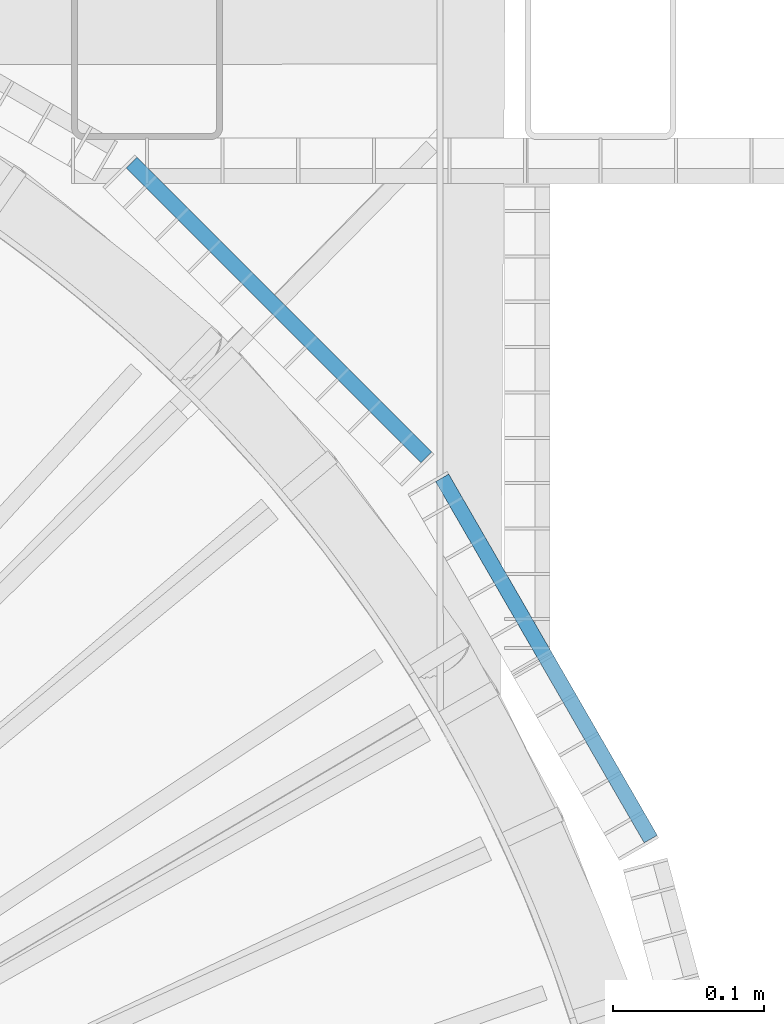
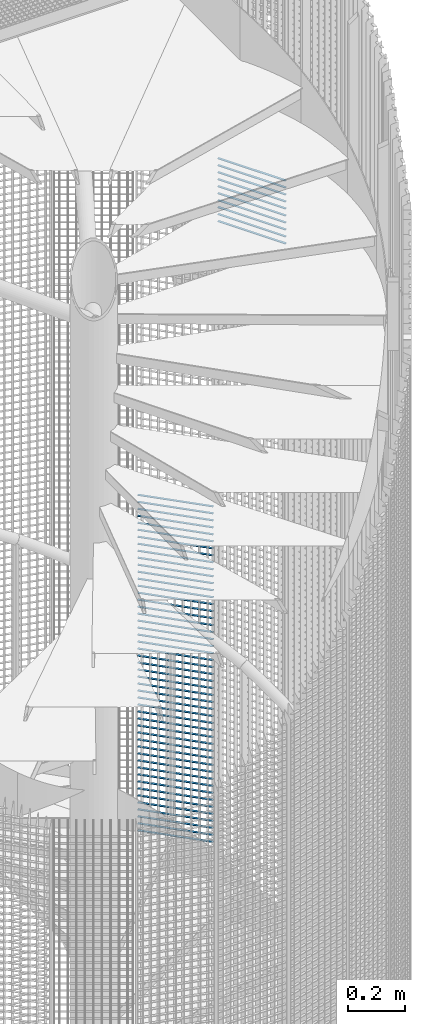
# One storey, part 286 of 1148: 59 beams, 2 elements without a shape of their own.
"""IFC2X3 building model written with IfcOpenShell, lengths in millimetres."""

from ifc_helpers import new_model, si_unit, frame, origin_with_axes, origin_2d_with_axis, place, context, subcontext, project, spatial, rectangle, extrude, material, type_object, element, aggregate, save


model = new_model("IFC2X3")

# Units and contexts
model_context = context("Model", 3, precision=1e-05, world=origin_with_axes())
body_context = subcontext(model_context, "Body", "Model", "MODEL_VIEW")
ifc_project = project(units=[si_unit("LENGTHUNIT", "METRE", prefix="MILLI"), si_unit("AREAUNIT", "SQUARE_METRE"), si_unit("VOLUMEUNIT", "CUBIC_METRE"), si_unit("MASSUNIT", "GRAM", prefix="KILO"), si_unit("TIMEUNIT", "SECOND"), si_unit("PLANEANGLEUNIT", "RADIAN"), si_unit("SOLIDANGLEUNIT", "STERADIAN"), si_unit("THERMODYNAMICTEMPERATUREUNIT", "DEGREE_CELSIUS"), si_unit("LUMINOUSINTENSITYUNIT", "LUMEN")], contexts=[model_context])

# Site, building, storey
site_placement = place(None, origin_with_axes())
site = spatial("IfcSite", under=ifc_project, at=site_placement, Name="Undefined", CompositionType="ELEMENT")
building_placement = place(site_placement, origin_with_axes())
building = spatial("IfcBuilding", under=site, at=building_placement, Name="Undefined", CompositionType="ELEMENT")
storey_placement = place(building_placement, origin_with_axes())
storey = spatial("IfcBuildingStorey", under=building, at=storey_placement, Name="Undefined", CompositionType="ELEMENT", Elevation=0.0)

# Assembly, beams
assembly_1_placement = place(storey_placement, origin_with_axes())
assembly_1 = element("IfcElementAssembly", 1, at=assembly_1_placement, inside=storey, Name="BORDURE", AssemblyPlace="NOTDEFINED", PredefinedType="NOTDEFINED")
ifc_material = material(Name="STEEL/S235JR")
beam_type = type_object("IfcBeamType", Name="PL2*10", PredefinedType="NOTDEFINED")
beam_1_placement = place(assembly_1_placement, frame((884.927168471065, 689.771348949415, 4470.0), z_axis=(0.707106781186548, 0.707106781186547, 0.0), x_axis=(-0.707106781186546, 0.707106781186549, 0.0)))
beam_1 = element("IfcBeam", 2, at=beam_1_placement, type_object=beam_type, material=ifc_material, Name="ENTRETOISE", context=body_context, shape_type="SweptSolid", body=[
    extrude(rectangle(XDim=2.0, YDim=10.0, at=origin_2d_with_axis()), frame((275.999999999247, 9.09494701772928e-13, 1.53210777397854e-14), z_axis=(-1.0, 0.0, 0.0), x_axis=(0.0, -1.0, 0.0)), (0.0, 0.0, 1.0), 276.0),
])
beam_2_placement = place(assembly_1_placement, frame((884.927168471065, 689.771348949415, 4440.0), z_axis=(0.707106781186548, 0.707106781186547, 0.0), x_axis=(-0.707106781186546, 0.707106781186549, 0.0)))
beam_2 = element("IfcBeam", 3, at=beam_2_placement, type_object=beam_type, material=ifc_material, Name="ENTRETOISE", context=body_context, shape_type="SweptSolid", body=[
    extrude(rectangle(XDim=2.0, YDim=10.0, at=origin_2d_with_axis()), frame((275.999999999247, 9.09494701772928e-13, 1.53210777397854e-14), z_axis=(-1.0, 0.0, 0.0), x_axis=(0.0, -1.0, 0.0)), (0.0, 0.0, 1.0), 276.0),
])
beam_3_placement = place(assembly_1_placement, frame((884.927168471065, 689.771348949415, 4410.0), z_axis=(0.707106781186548, 0.707106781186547, 0.0), x_axis=(-0.707106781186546, 0.707106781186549, 0.0)))
beam_3 = element("IfcBeam", 4, at=beam_3_placement, type_object=beam_type, material=ifc_material, Name="ENTRETOISE", context=body_context, shape_type="SweptSolid", body=[
    extrude(rectangle(XDim=2.0, YDim=10.0, at=origin_2d_with_axis()), frame((275.999999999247, 9.09494701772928e-13, 1.53210777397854e-14), z_axis=(-1.0, 0.0, 0.0), x_axis=(0.0, -1.0, 0.0)), (0.0, 0.0, 1.0), 276.0),
])
beam_4_placement = place(assembly_1_placement, frame((884.927168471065, 689.771348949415, 4380.0), z_axis=(0.707106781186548, 0.707106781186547, 0.0), x_axis=(-0.707106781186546, 0.707106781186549, 0.0)))
beam_4 = element("IfcBeam", 5, at=beam_4_placement, type_object=beam_type, material=ifc_material, Name="ENTRETOISE", context=body_context, shape_type="SweptSolid", body=[
    extrude(rectangle(XDim=2.0, YDim=10.0, at=origin_2d_with_axis()), frame((275.999999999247, 9.09494701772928e-13, 1.53210777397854e-14), z_axis=(-1.0, 0.0, 0.0), x_axis=(0.0, -1.0, 0.0)), (0.0, 0.0, 1.0), 276.0),
])
beam_5_placement = place(assembly_1_placement, frame((884.927168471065, 689.771348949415, 4350.0), z_axis=(0.707106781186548, 0.707106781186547, 0.0), x_axis=(-0.707106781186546, 0.707106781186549, 0.0)))
beam_5 = element("IfcBeam", 6, at=beam_5_placement, type_object=beam_type, material=ifc_material, Name="ENTRETOISE", context=body_context, shape_type="SweptSolid", body=[
    extrude(rectangle(XDim=2.0, YDim=10.0, at=origin_2d_with_axis()), frame((275.999999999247, 9.09494701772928e-13, 1.53210777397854e-14), z_axis=(-1.0, 0.0, 0.0), x_axis=(0.0, -1.0, 0.0)), (0.0, 0.0, 1.0), 276.0),
])
beam_6_placement = place(assembly_1_placement, frame((884.927168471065, 689.771348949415, 4320.0), z_axis=(0.707106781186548, 0.707106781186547, 0.0), x_axis=(-0.707106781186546, 0.707106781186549, 0.0)))
beam_6 = element("IfcBeam", 7, at=beam_6_placement, type_object=beam_type, material=ifc_material, Name="ENTRETOISE", context=body_context, shape_type="SweptSolid", body=[
    extrude(rectangle(XDim=2.0, YDim=10.0, at=origin_2d_with_axis()), frame((275.999999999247, 9.09494701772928e-13, 1.53210777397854e-14), z_axis=(-1.0, 0.0, 0.0), x_axis=(0.0, -1.0, 0.0)), (0.0, 0.0, 1.0), 276.0),
])
beam_7_placement = place(assembly_1_placement, frame((884.927168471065, 689.771348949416, 4290.0), z_axis=(0.707106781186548, 0.707106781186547, 0.0), x_axis=(-0.707106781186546, 0.707106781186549, 0.0)))
beam_7 = element("IfcBeam", 8, at=beam_7_placement, type_object=beam_type, material=ifc_material, Name="ENTRETOISE", context=body_context, shape_type="SweptSolid", body=[
    extrude(rectangle(XDim=2.0, YDim=10.0, at=origin_2d_with_axis()), frame((275.999999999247, 9.09494701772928e-13, 1.53210777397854e-14), z_axis=(-1.0, 0.0, 0.0), x_axis=(0.0, -1.0, 0.0)), (0.0, 0.0, 1.0), 276.0),
])
beam_8_placement = place(assembly_1_placement, frame((884.927168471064, 689.771348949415, 4260.0), z_axis=(0.707106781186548, 0.707106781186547, 0.0), x_axis=(-0.707106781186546, 0.707106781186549, 0.0)))
beam_8 = element("IfcBeam", 9, at=beam_8_placement, type_object=beam_type, material=ifc_material, Name="ENTRETOISE", context=body_context, shape_type="SweptSolid", body=[
    extrude(rectangle(XDim=2.0, YDim=10.0, at=origin_2d_with_axis()), frame((275.999999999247, 9.09494701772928e-13, 1.53210777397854e-14), z_axis=(-1.0, 0.0, 0.0), x_axis=(0.0, -1.0, 0.0)), (0.0, 0.0, 1.0), 276.0),
])
beam_9_placement = place(assembly_1_placement, frame((884.927168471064, 689.771348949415, 4230.0), z_axis=(0.707106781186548, 0.707106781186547, 0.0), x_axis=(-0.707106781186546, 0.707106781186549, 0.0)))
beam_9 = element("IfcBeam", 10, at=beam_9_placement, type_object=beam_type, material=ifc_material, Name="ENTRETOISE", context=body_context, shape_type="SweptSolid", body=[
    extrude(rectangle(XDim=2.0, YDim=10.0, at=origin_2d_with_axis()), frame((275.999999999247, 9.09494701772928e-13, 1.53210777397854e-14), z_axis=(-1.0, 0.0, 0.0), x_axis=(0.0, -1.0, 0.0)), (0.0, 0.0, 1.0), 276.0),
])
beam_10_placement = place(assembly_1_placement, frame((884.927168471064, 689.771348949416, 4200.0), z_axis=(0.707106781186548, 0.707106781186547, 0.0), x_axis=(-0.707106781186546, 0.707106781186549, 0.0)))
beam_10 = element("IfcBeam", 11, at=beam_10_placement, type_object=beam_type, material=ifc_material, Name="ENTRETOISE", context=body_context, shape_type="SweptSolid", body=[
    extrude(rectangle(XDim=2.0, YDim=10.0, at=origin_2d_with_axis()), frame((275.999999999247, 9.09494701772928e-13, 1.53210777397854e-14), z_axis=(-1.0, 0.0, 0.0), x_axis=(0.0, -1.0, 0.0)), (0.0, 0.0, 1.0), 276.0),
])
beam_11_placement = place(assembly_1_placement, frame((884.927168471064, 689.771348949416, 4170.0), z_axis=(0.707106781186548, 0.707106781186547, 0.0), x_axis=(-0.707106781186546, 0.707106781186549, 0.0)))
beam_11 = element("IfcBeam", 12, at=beam_11_placement, type_object=beam_type, material=ifc_material, Name="ENTRETOISE", context=body_context, shape_type="SweptSolid", body=[
    extrude(rectangle(XDim=2.0, YDim=10.0, at=origin_2d_with_axis()), frame((275.999999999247, 9.09494701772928e-13, 1.53210777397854e-14), z_axis=(-1.0, 0.0, 0.0), x_axis=(0.0, -1.0, 0.0)), (0.0, 0.0, 1.0), 276.0),
])
beam_12_placement = place(assembly_1_placement, frame((884.927168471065, 689.771348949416, 4140.0), z_axis=(0.707106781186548, 0.707106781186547, 0.0), x_axis=(-0.707106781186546, 0.707106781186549, 0.0)))
beam_12 = element("IfcBeam", 13, at=beam_12_placement, type_object=beam_type, material=ifc_material, Name="ENTRETOISE", context=body_context, shape_type="SweptSolid", body=[
    extrude(rectangle(XDim=2.0, YDim=10.0, at=origin_2d_with_axis()), frame((275.999999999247, 9.09494701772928e-13, 1.53210777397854e-14), z_axis=(-1.0, 0.0, 0.0), x_axis=(0.0, -1.0, 0.0)), (0.0, 0.0, 1.0), 276.0),
])
beam_13_placement = place(assembly_1_placement, frame((884.927168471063, 689.771348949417, 3720.0), z_axis=(0.707106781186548, 0.707106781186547, 0.0), x_axis=(-0.707106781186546, 0.707106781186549, 0.0)))
beam_13 = element("IfcBeam", 14, at=beam_13_placement, type_object=beam_type, material=ifc_material, Name="ENTRETOISE", context=body_context, shape_type="SweptSolid", body=[
    extrude(rectangle(XDim=2.0, YDim=10.0, at=origin_2d_with_axis()), frame((275.999999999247, 9.09494701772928e-13, 1.53210777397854e-14), z_axis=(-1.0, 0.0, 0.0), x_axis=(0.0, -1.0, 0.0)), (0.0, 0.0, 1.0), 276.0),
])
beam_14_placement = place(assembly_1_placement, frame((884.927168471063, 689.771348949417, 3690.0), z_axis=(0.707106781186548, 0.707106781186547, 0.0), x_axis=(-0.707106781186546, 0.707106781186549, 0.0)))
beam_14 = element("IfcBeam", 15, at=beam_14_placement, type_object=beam_type, material=ifc_material, Name="ENTRETOISE", context=body_context, shape_type="SweptSolid", body=[
    extrude(rectangle(XDim=2.0, YDim=10.0, at=origin_2d_with_axis()), frame((275.999999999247, 9.09494701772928e-13, 1.53210777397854e-14), z_axis=(-1.0, 0.0, 0.0), x_axis=(0.0, -1.0, 0.0)), (0.0, 0.0, 1.0), 276.0),
])
beam_15_placement = place(assembly_1_placement, frame((884.927168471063, 689.771348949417, 3750.0), z_axis=(0.707106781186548, 0.707106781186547, 0.0), x_axis=(-0.707106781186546, 0.707106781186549, 0.0)))
beam_15 = element("IfcBeam", 16, at=beam_15_placement, type_object=beam_type, material=ifc_material, Name="ENTRETOISE", context=body_context, shape_type="SweptSolid", body=[
    extrude(rectangle(XDim=2.0, YDim=10.0, at=origin_2d_with_axis()), frame((275.999999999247, 9.09494701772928e-13, 1.53210777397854e-14), z_axis=(-1.0, 0.0, 0.0), x_axis=(0.0, -1.0, 0.0)), (0.0, 0.0, 1.0), 276.0),
])
beam_16_placement = place(assembly_1_placement, frame((884.927168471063, 689.771348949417, 3660.0), z_axis=(0.707106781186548, 0.707106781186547, 0.0), x_axis=(-0.707106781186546, 0.707106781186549, 0.0)))
beam_16 = element("IfcBeam", 17, at=beam_16_placement, type_object=beam_type, material=ifc_material, Name="ENTRETOISE", context=body_context, shape_type="SweptSolid", body=[
    extrude(rectangle(XDim=2.0, YDim=10.0, at=origin_2d_with_axis()), frame((275.999999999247, 9.09494701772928e-13, 1.53210777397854e-14), z_axis=(-1.0, 0.0, 0.0), x_axis=(0.0, -1.0, 0.0)), (0.0, 0.0, 1.0), 276.0),
])
beam_17_placement = place(assembly_1_placement, frame((884.927168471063, 689.771348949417, 3630.0), z_axis=(0.707106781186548, 0.707106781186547, 0.0), x_axis=(-0.707106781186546, 0.707106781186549, 0.0)))
beam_17 = element("IfcBeam", 18, at=beam_17_placement, type_object=beam_type, material=ifc_material, Name="ENTRETOISE", context=body_context, shape_type="SweptSolid", body=[
    extrude(rectangle(XDim=2.0, YDim=10.0, at=origin_2d_with_axis()), frame((275.999999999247, 9.09494701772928e-13, 1.53210777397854e-14), z_axis=(-1.0, 0.0, 0.0), x_axis=(0.0, -1.0, 0.0)), (0.0, 0.0, 1.0), 276.0),
])
beam_18_placement = place(assembly_1_placement, frame((884.927168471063, 689.771348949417, 3780.0), z_axis=(0.707106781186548, 0.707106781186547, 0.0), x_axis=(-0.707106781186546, 0.707106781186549, 0.0)))
beam_18 = element("IfcBeam", 19, at=beam_18_placement, type_object=beam_type, material=ifc_material, Name="ENTRETOISE", context=body_context, shape_type="SweptSolid", body=[
    extrude(rectangle(XDim=2.0, YDim=10.0, at=origin_2d_with_axis()), frame((275.999999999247, 9.09494701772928e-13, 1.53210777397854e-14), z_axis=(-1.0, 0.0, 0.0), x_axis=(0.0, -1.0, 0.0)), (0.0, 0.0, 1.0), 276.0),
])
beam_19_placement = place(assembly_1_placement, frame((884.927168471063, 689.771348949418, 3600.0), z_axis=(0.707106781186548, 0.707106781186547, 0.0), x_axis=(-0.707106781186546, 0.707106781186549, 0.0)))
beam_19 = element("IfcBeam", 20, at=beam_19_placement, type_object=beam_type, material=ifc_material, Name="ENTRETOISE", context=body_context, shape_type="SweptSolid", body=[
    extrude(rectangle(XDim=2.0, YDim=10.0, at=origin_2d_with_axis()), frame((275.999999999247, 9.09494701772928e-13, 1.53210777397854e-14), z_axis=(-1.0, 0.0, 0.0), x_axis=(0.0, -1.0, 0.0)), (0.0, 0.0, 1.0), 276.0),
])
beam_20_placement = place(assembly_1_placement, frame((884.927168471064, 689.771348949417, 3810.0), z_axis=(0.707106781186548, 0.707106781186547, 0.0), x_axis=(-0.707106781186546, 0.707106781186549, 0.0)))
beam_20 = element("IfcBeam", 21, at=beam_20_placement, type_object=beam_type, material=ifc_material, Name="ENTRETOISE", context=body_context, shape_type="SweptSolid", body=[
    extrude(rectangle(XDim=2.0, YDim=10.0, at=origin_2d_with_axis()), frame((275.999999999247, 9.09494701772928e-13, 1.53210777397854e-14), z_axis=(-1.0, 0.0, 0.0), x_axis=(0.0, -1.0, 0.0)), (0.0, 0.0, 1.0), 276.0),
])
beam_21_placement = place(assembly_1_placement, frame((884.927168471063, 689.771348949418, 3570.0), z_axis=(0.707106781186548, 0.707106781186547, 0.0), x_axis=(-0.707106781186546, 0.707106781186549, 0.0)))
beam_21 = element("IfcBeam", 22, at=beam_21_placement, type_object=beam_type, material=ifc_material, Name="ENTRETOISE", context=body_context, shape_type="SweptSolid", body=[
    extrude(rectangle(XDim=2.0, YDim=10.0, at=origin_2d_with_axis()), frame((275.999999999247, 9.09494701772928e-13, 1.53210777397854e-14), z_axis=(-1.0, 0.0, 0.0), x_axis=(0.0, -1.0, 0.0)), (0.0, 0.0, 1.0), 276.0),
])
beam_22_placement = place(assembly_1_placement, frame((884.927168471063, 689.771348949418, 3540.0), z_axis=(0.707106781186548, 0.707106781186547, 0.0), x_axis=(-0.707106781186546, 0.707106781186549, 0.0)))
beam_22 = element("IfcBeam", 23, at=beam_22_placement, type_object=beam_type, material=ifc_material, Name="ENTRETOISE", context=body_context, shape_type="SweptSolid", body=[
    extrude(rectangle(XDim=2.0, YDim=10.0, at=origin_2d_with_axis()), frame((275.999999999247, 9.09494701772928e-13, 1.53210777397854e-14), z_axis=(-1.0, 0.0, 0.0), x_axis=(0.0, -1.0, 0.0)), (0.0, 0.0, 1.0), 276.0),
])
beam_23_placement = place(assembly_1_placement, frame((884.927168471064, 689.771348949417, 3840.0), z_axis=(0.707106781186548, 0.707106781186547, 0.0), x_axis=(-0.707106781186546, 0.707106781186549, 0.0)))
beam_23 = element("IfcBeam", 24, at=beam_23_placement, type_object=beam_type, material=ifc_material, Name="ENTRETOISE", context=body_context, shape_type="SweptSolid", body=[
    extrude(rectangle(XDim=2.0, YDim=10.0, at=origin_2d_with_axis()), frame((275.999999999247, 9.09494701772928e-13, 1.53210777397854e-14), z_axis=(-1.0, 0.0, 0.0), x_axis=(0.0, -1.0, 0.0)), (0.0, 0.0, 1.0), 276.0),
])
beam_24_placement = place(assembly_1_placement, frame((884.927168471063, 689.771348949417, 3510.0), z_axis=(0.707106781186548, 0.707106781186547, 0.0), x_axis=(-0.707106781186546, 0.707106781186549, 0.0)))
beam_24 = element("IfcBeam", 25, at=beam_24_placement, type_object=beam_type, material=ifc_material, Name="ENTRETOISE", context=body_context, shape_type="SweptSolid", body=[
    extrude(rectangle(XDim=2.0, YDim=10.0, at=origin_2d_with_axis()), frame((275.999999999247, 9.09494701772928e-13, 1.53210777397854e-14), z_axis=(-1.0, 0.0, 0.0), x_axis=(0.0, -1.0, 0.0)), (0.0, 0.0, 1.0), 276.0),
])
beam_25_placement = place(assembly_1_placement, frame((884.927168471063, 689.771348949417, 3480.0), z_axis=(0.707106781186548, 0.707106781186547, 0.0), x_axis=(-0.707106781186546, 0.707106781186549, 0.0)))
beam_25 = element("IfcBeam", 26, at=beam_25_placement, type_object=beam_type, material=ifc_material, Name="ENTRETOISE", context=body_context, shape_type="SweptSolid", body=[
    extrude(rectangle(XDim=2.0, YDim=10.0, at=origin_2d_with_axis()), frame((275.999999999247, 9.09494701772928e-13, 1.53210777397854e-14), z_axis=(-1.0, 0.0, 0.0), x_axis=(0.0, -1.0, 0.0)), (0.0, 0.0, 1.0), 276.0),
])
beam_26_placement = place(assembly_1_placement, frame((884.927168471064, 689.771348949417, 3870.0), z_axis=(0.707106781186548, 0.707106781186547, 0.0), x_axis=(-0.707106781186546, 0.707106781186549, 0.0)))
beam_26 = element("IfcBeam", 27, at=beam_26_placement, type_object=beam_type, material=ifc_material, Name="ENTRETOISE", context=body_context, shape_type="SweptSolid", body=[
    extrude(rectangle(XDim=2.0, YDim=10.0, at=origin_2d_with_axis()), frame((275.999999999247, 9.09494701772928e-13, 1.53210777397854e-14), z_axis=(-1.0, 0.0, 0.0), x_axis=(0.0, -1.0, 0.0)), (0.0, 0.0, 1.0), 276.0),
])
beam_27_placement = place(assembly_1_placement, frame((884.927168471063, 689.771348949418, 3450.0), z_axis=(0.707106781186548, 0.707106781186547, 0.0), x_axis=(-0.707106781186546, 0.707106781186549, 0.0)))
beam_27 = element("IfcBeam", 28, at=beam_27_placement, type_object=beam_type, material=ifc_material, Name="ENTRETOISE", context=body_context, shape_type="SweptSolid", body=[
    extrude(rectangle(XDim=2.0, YDim=10.0, at=origin_2d_with_axis()), frame((275.999999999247, 9.09494701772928e-13, 1.53210777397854e-14), z_axis=(-1.0, 0.0, 0.0), x_axis=(0.0, -1.0, 0.0)), (0.0, 0.0, 1.0), 276.0),
])
beam_28_placement = place(assembly_1_placement, frame((884.927168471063, 689.771348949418, 3420.0), z_axis=(0.707106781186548, 0.707106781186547, 0.0), x_axis=(-0.707106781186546, 0.707106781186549, 0.0)))
beam_28 = element("IfcBeam", 29, at=beam_28_placement, type_object=beam_type, material=ifc_material, Name="ENTRETOISE", context=body_context, shape_type="SweptSolid", body=[
    extrude(rectangle(XDim=2.0, YDim=10.0, at=origin_2d_with_axis()), frame((275.999999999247, 9.09494701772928e-13, 1.53210777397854e-14), z_axis=(-1.0, 0.0, 0.0), x_axis=(0.0, -1.0, 0.0)), (0.0, 0.0, 1.0), 276.0),
])
beam_29_placement = place(assembly_1_placement, frame((884.927168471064, 689.771348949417, 3900.0), z_axis=(0.707106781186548, 0.707106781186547, 0.0), x_axis=(-0.707106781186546, 0.707106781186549, 0.0)))
beam_29 = element("IfcBeam", 30, at=beam_29_placement, type_object=beam_type, material=ifc_material, Name="ENTRETOISE", context=body_context, shape_type="SweptSolid", body=[
    extrude(rectangle(XDim=2.0, YDim=10.0, at=origin_2d_with_axis()), frame((275.999999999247, 9.09494701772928e-13, 1.53210777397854e-14), z_axis=(-1.0, 0.0, 0.0), x_axis=(0.0, -1.0, 0.0)), (0.0, 0.0, 1.0), 276.0),
])
beam_30_placement = place(assembly_1_placement, frame((884.927168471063, 689.771348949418, 3390.0), z_axis=(0.707106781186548, 0.707106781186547, 0.0), x_axis=(-0.707106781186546, 0.707106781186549, 0.0)))
beam_30 = element("IfcBeam", 31, at=beam_30_placement, type_object=beam_type, material=ifc_material, Name="ENTRETOISE", context=body_context, shape_type="SweptSolid", body=[
    extrude(rectangle(XDim=2.0, YDim=10.0, at=origin_2d_with_axis()), frame((275.999999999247, 9.09494701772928e-13, 1.53210777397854e-14), z_axis=(-1.0, 0.0, 0.0), x_axis=(0.0, -1.0, 0.0)), (0.0, 0.0, 1.0), 276.0),
])
beam_31_placement = place(assembly_1_placement, frame((884.927168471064, 689.771348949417, 3930.0), z_axis=(0.707106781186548, 0.707106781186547, 0.0), x_axis=(-0.707106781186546, 0.707106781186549, 0.0)))
beam_31 = element("IfcBeam", 32, at=beam_31_placement, type_object=beam_type, material=ifc_material, Name="ENTRETOISE", context=body_context, shape_type="SweptSolid", body=[
    extrude(rectangle(XDim=2.0, YDim=10.0, at=origin_2d_with_axis()), frame((275.999999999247, 9.09494701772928e-13, 1.53210777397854e-14), z_axis=(-1.0, 0.0, 0.0), x_axis=(0.0, -1.0, 0.0)), (0.0, 0.0, 1.0), 276.0),
])
beam_32_placement = place(assembly_1_placement, frame((884.927168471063, 689.771348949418, 3360.0), z_axis=(0.707106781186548, 0.707106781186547, 0.0), x_axis=(-0.707106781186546, 0.707106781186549, 0.0)))
beam_32 = element("IfcBeam", 33, at=beam_32_placement, type_object=beam_type, material=ifc_material, Name="ENTRETOISE", context=body_context, shape_type="SweptSolid", body=[
    extrude(rectangle(XDim=2.0, YDim=10.0, at=origin_2d_with_axis()), frame((275.999999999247, 9.09494701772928e-13, 1.53210777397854e-14), z_axis=(-1.0, 0.0, 0.0), x_axis=(0.0, -1.0, 0.0)), (0.0, 0.0, 1.0), 276.0),
])
beam_33_placement = place(assembly_1_placement, frame((884.927168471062, 689.771348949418, 3330.0), z_axis=(0.707106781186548, 0.707106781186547, 0.0), x_axis=(-0.707106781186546, 0.707106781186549, 0.0)))
beam_33 = element("IfcBeam", 34, at=beam_33_placement, type_object=beam_type, material=ifc_material, Name="ENTRETOISE", context=body_context, shape_type="SweptSolid", body=[
    extrude(rectangle(XDim=2.0, YDim=10.0, at=origin_2d_with_axis()), frame((275.999999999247, 9.09494701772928e-13, 1.53210777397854e-14), z_axis=(-1.0, 0.0, 0.0), x_axis=(0.0, -1.0, 0.0)), (0.0, 0.0, 1.0), 276.0),
])
beam_34_placement = place(assembly_1_placement, frame((884.927168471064, 689.771348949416, 3960.0), z_axis=(0.707106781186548, 0.707106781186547, 0.0), x_axis=(-0.707106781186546, 0.707106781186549, 0.0)))
beam_34 = element("IfcBeam", 35, at=beam_34_placement, type_object=beam_type, material=ifc_material, Name="ENTRETOISE", context=body_context, shape_type="SweptSolid", body=[
    extrude(rectangle(XDim=2.0, YDim=10.0, at=origin_2d_with_axis()), frame((275.999999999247, 9.09494701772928e-13, 1.53210777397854e-14), z_axis=(-1.0, 0.0, 0.0), x_axis=(0.0, -1.0, 0.0)), (0.0, 0.0, 1.0), 276.0),
])
beam_35_placement = place(assembly_1_placement, frame((884.927168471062, 689.771348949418, 3300.0), z_axis=(0.707106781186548, 0.707106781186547, 0.0), x_axis=(-0.707106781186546, 0.707106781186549, 0.0)))
beam_35 = element("IfcBeam", 36, at=beam_35_placement, type_object=beam_type, material=ifc_material, Name="ENTRETOISE", context=body_context, shape_type="SweptSolid", body=[
    extrude(rectangle(XDim=2.0, YDim=10.0, at=origin_2d_with_axis()), frame((275.999999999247, 9.09494701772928e-13, 1.53210777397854e-14), z_axis=(-1.0, 0.0, 0.0), x_axis=(0.0, -1.0, 0.0)), (0.0, 0.0, 1.0), 276.0),
])
beam_36_placement = place(assembly_1_placement, frame((884.927168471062, 689.771348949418, 3270.0), z_axis=(0.707106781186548, 0.707106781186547, 0.0), x_axis=(-0.707106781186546, 0.707106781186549, 0.0)))
beam_36 = element("IfcBeam", 37, at=beam_36_placement, type_object=beam_type, material=ifc_material, Name="ENTRETOISE", context=body_context, shape_type="SweptSolid", body=[
    extrude(rectangle(XDim=2.0, YDim=10.0, at=origin_2d_with_axis()), frame((275.999999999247, 9.09494701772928e-13, 1.53210777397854e-14), z_axis=(-1.0, 0.0, 0.0), x_axis=(0.0, -1.0, 0.0)), (0.0, 0.0, 1.0), 276.0),
])
beam_37_placement = place(assembly_1_placement, frame((884.927168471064, 689.771348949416, 3990.0), z_axis=(0.707106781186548, 0.707106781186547, 0.0), x_axis=(-0.707106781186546, 0.707106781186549, 0.0)))
beam_37 = element("IfcBeam", 38, at=beam_37_placement, type_object=beam_type, material=ifc_material, Name="ENTRETOISE", context=body_context, shape_type="SweptSolid", body=[
    extrude(rectangle(XDim=2.0, YDim=10.0, at=origin_2d_with_axis()), frame((275.999999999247, 9.09494701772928e-13, 1.53210777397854e-14), z_axis=(-1.0, 0.0, 0.0), x_axis=(0.0, -1.0, 0.0)), (0.0, 0.0, 1.0), 276.0),
])
beam_38_placement = place(assembly_1_placement, frame((884.927168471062, 689.771348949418, 3240.0), z_axis=(0.707106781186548, 0.707106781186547, 0.0), x_axis=(-0.707106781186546, 0.707106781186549, 0.0)))
beam_38 = element("IfcBeam", 39, at=beam_38_placement, type_object=beam_type, material=ifc_material, Name="ENTRETOISE", context=body_context, shape_type="SweptSolid", body=[
    extrude(rectangle(XDim=2.0, YDim=10.0, at=origin_2d_with_axis()), frame((275.999999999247, 9.09494701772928e-13, 1.53210777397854e-14), z_axis=(-1.0, 0.0, 0.0), x_axis=(0.0, -1.0, 0.0)), (0.0, 0.0, 1.0), 276.0),
])
beam_39_placement = place(assembly_1_placement, frame((884.927168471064, 689.771348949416, 4020.0), z_axis=(0.707106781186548, 0.707106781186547, 0.0), x_axis=(-0.707106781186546, 0.707106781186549, 0.0)))
beam_39 = element("IfcBeam", 40, at=beam_39_placement, type_object=beam_type, material=ifc_material, Name="ENTRETOISE", context=body_context, shape_type="SweptSolid", body=[
    extrude(rectangle(XDim=2.0, YDim=10.0, at=origin_2d_with_axis()), frame((275.999999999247, 9.09494701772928e-13, 1.53210777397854e-14), z_axis=(-1.0, 0.0, 0.0), x_axis=(0.0, -1.0, 0.0)), (0.0, 0.0, 1.0), 276.0),
])
beam_40_placement = place(assembly_1_placement, frame((884.927168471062, 689.771348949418, 3210.0), z_axis=(0.707106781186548, 0.707106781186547, 0.0), x_axis=(-0.707106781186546, 0.707106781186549, 0.0)))
beam_40 = element("IfcBeam", 41, at=beam_40_placement, type_object=beam_type, material=ifc_material, Name="ENTRETOISE", context=body_context, shape_type="SweptSolid", body=[
    extrude(rectangle(XDim=2.0, YDim=10.0, at=origin_2d_with_axis()), frame((275.999999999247, 9.09494701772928e-13, 1.53210777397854e-14), z_axis=(-1.0, 0.0, 0.0), x_axis=(0.0, -1.0, 0.0)), (0.0, 0.0, 1.0), 276.0),
])
beam_41_placement = place(assembly_1_placement, frame((884.927168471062, 689.771348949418, 3180.0), z_axis=(0.707106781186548, 0.707106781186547, 0.0), x_axis=(-0.707106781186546, 0.707106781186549, 0.0)))
beam_41 = element("IfcBeam", 42, at=beam_41_placement, type_object=beam_type, material=ifc_material, Name="ENTRETOISE", context=body_context, shape_type="SweptSolid", body=[
    extrude(rectangle(XDim=2.0, YDim=10.0, at=origin_2d_with_axis()), frame((275.999999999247, 9.09494701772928e-13, 1.53210777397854e-14), z_axis=(-1.0, 0.0, 0.0), x_axis=(0.0, -1.0, 0.0)), (0.0, 0.0, 1.0), 276.0),
])
beam_42_placement = place(assembly_1_placement, frame((884.927168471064, 689.771348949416, 4050.0), z_axis=(0.707106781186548, 0.707106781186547, 0.0), x_axis=(-0.707106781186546, 0.707106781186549, 0.0)))
beam_42 = element("IfcBeam", 43, at=beam_42_placement, type_object=beam_type, material=ifc_material, Name="ENTRETOISE", context=body_context, shape_type="SweptSolid", body=[
    extrude(rectangle(XDim=2.0, YDim=10.0, at=origin_2d_with_axis()), frame((275.999999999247, 9.09494701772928e-13, 1.53210777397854e-14), z_axis=(-1.0, 0.0, 0.0), x_axis=(0.0, -1.0, 0.0)), (0.0, 0.0, 1.0), 276.0),
])
beam_43_placement = place(assembly_1_placement, frame((884.927168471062, 689.771348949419, 3150.0), z_axis=(0.707106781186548, 0.707106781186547, 0.0), x_axis=(-0.707106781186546, 0.707106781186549, 0.0)))
beam_43 = element("IfcBeam", 44, at=beam_43_placement, type_object=beam_type, material=ifc_material, Name="ENTRETOISE", context=body_context, shape_type="SweptSolid", body=[
    extrude(rectangle(XDim=2.0, YDim=10.0, at=origin_2d_with_axis()), frame((275.999999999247, 9.09494701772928e-13, 1.53210777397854e-14), z_axis=(-1.0, 0.0, 0.0), x_axis=(0.0, -1.0, 0.0)), (0.0, 0.0, 1.0), 276.0),
])
beam_44_placement = place(assembly_1_placement, frame((884.927168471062, 689.771348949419, 3120.0), z_axis=(0.707106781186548, 0.707106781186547, 0.0), x_axis=(-0.707106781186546, 0.707106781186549, 0.0)))
beam_44 = element("IfcBeam", 45, at=beam_44_placement, type_object=beam_type, material=ifc_material, Name="ENTRETOISE", context=body_context, shape_type="SweptSolid", body=[
    extrude(rectangle(XDim=2.0, YDim=10.0, at=origin_2d_with_axis()), frame((275.999999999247, 9.09494701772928e-13, 1.53210777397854e-14), z_axis=(-1.0, 0.0, 0.0), x_axis=(0.0, -1.0, 0.0)), (0.0, 0.0, 1.0), 276.0),
])
beam_45_placement = place(assembly_1_placement, frame((884.927168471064, 689.771348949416, 4080.0), z_axis=(0.707106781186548, 0.707106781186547, 0.0), x_axis=(-0.707106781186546, 0.707106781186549, 0.0)))
beam_45 = element("IfcBeam", 46, at=beam_45_placement, type_object=beam_type, material=ifc_material, Name="ENTRETOISE", context=body_context, shape_type="SweptSolid", body=[
    extrude(rectangle(XDim=2.0, YDim=10.0, at=origin_2d_with_axis()), frame((275.999999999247, 9.09494701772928e-13, 1.53210777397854e-14), z_axis=(-1.0, 0.0, 0.0), x_axis=(0.0, -1.0, 0.0)), (0.0, 0.0, 1.0), 276.0),
])
beam_46_placement = place(assembly_1_placement, frame((884.927168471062, 689.771348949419, 3090.0), z_axis=(0.707106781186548, 0.707106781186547, 0.0), x_axis=(-0.707106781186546, 0.707106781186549, 0.0)))
beam_46 = element("IfcBeam", 47, at=beam_46_placement, type_object=beam_type, material=ifc_material, Name="ENTRETOISE", context=body_context, shape_type="SweptSolid", body=[
    extrude(rectangle(XDim=2.0, YDim=10.0, at=origin_2d_with_axis()), frame((275.999999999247, 9.09494701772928e-13, 1.53210777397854e-14), z_axis=(-1.0, 0.0, 0.0), x_axis=(0.0, -1.0, 0.0)), (0.0, 0.0, 1.0), 276.0),
])
beam_47_placement = place(assembly_1_placement, frame((884.927168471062, 689.771348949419, 3060.0), z_axis=(0.707106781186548, 0.707106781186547, 0.0), x_axis=(-0.707106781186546, 0.707106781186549, 0.0)))
beam_47 = element("IfcBeam", 48, at=beam_47_placement, type_object=beam_type, material=ifc_material, Name="ENTRETOISE", context=body_context, shape_type="SweptSolid", body=[
    extrude(rectangle(XDim=2.0, YDim=10.0, at=origin_2d_with_axis()), frame((275.999999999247, 9.09494701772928e-13, 1.53210777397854e-14), z_axis=(-1.0, 0.0, 0.0), x_axis=(0.0, -1.0, 0.0)), (0.0, 0.0, 1.0), 276.0),
])
beam_48_placement = place(assembly_1_placement, frame((884.927168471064, 689.771348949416, 4110.0), z_axis=(0.707106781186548, 0.707106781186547, 0.0), x_axis=(-0.707106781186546, 0.707106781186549, 0.0)))
beam_48 = element("IfcBeam", 49, at=beam_48_placement, type_object=beam_type, material=ifc_material, Name="ENTRETOISE", context=body_context, shape_type="SweptSolid", body=[
    extrude(rectangle(XDim=2.0, YDim=10.0, at=origin_2d_with_axis()), frame((275.999999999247, 9.09494701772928e-13, 1.53210777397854e-14), z_axis=(-1.0, 0.0, 0.0), x_axis=(0.0, -1.0, 0.0)), (0.0, 0.0, 1.0), 276.0),
])
beam_49_placement = place(assembly_1_placement, frame((884.92716847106, 689.771348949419, 3030.0), z_axis=(0.707106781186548, 0.707106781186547, 0.0), x_axis=(-0.707106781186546, 0.707106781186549, 0.0)))
beam_49 = element("IfcBeam", 50, at=beam_49_placement, type_object=beam_type, material=ifc_material, Name="ENTRETOISE", context=body_context, shape_type="SweptSolid", body=[
    extrude(rectangle(XDim=2.0, YDim=10.0, at=origin_2d_with_axis()), frame((275.999999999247, 9.09494701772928e-13, 1.53210777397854e-14), z_axis=(-1.0, 0.0, 0.0), x_axis=(0.0, -1.0, 0.0)), (0.0, 0.0, 1.0), 276.0),
])
aggregate(assembly_1, [beam_1, beam_2, beam_3, beam_4, beam_5, beam_6, beam_7, beam_8, beam_9, beam_10, beam_11, beam_12, beam_13, beam_14, beam_15, beam_16, beam_17, beam_18, beam_19, beam_20, beam_21, beam_22, beam_23, beam_24, beam_25, beam_26, beam_27, beam_28, beam_29, beam_30, beam_31, beam_32, beam_33, beam_34, beam_35, beam_36, beam_37, beam_38, beam_39, beam_40, beam_41, beam_42, beam_43, beam_44, beam_45, beam_46, beam_47, beam_48, beam_49])

assembly_2_placement = place(storey_placement, origin_with_axes())
assembly_2 = element("IfcElementAssembly", 51, at=assembly_2_placement, inside=storey, Name="BORDURE", AssemblyPlace="NOTDEFINED", PredefinedType="NOTDEFINED")
beam_50_placement = place(assembly_2_placement, frame((1033.29996828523, 437.231955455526, 5970.0), z_axis=(0.866025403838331, 0.499999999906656, 0.0), x_axis=(-0.49999999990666, 0.866025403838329, 0.0)))
beam_50 = element("IfcBeam", 52, at=beam_50_placement, type_object=beam_type, material=ifc_material, Name="ENTRETOISE", context=body_context, shape_type="SweptSolid", body=[
    extrude(rectangle(XDim=2.0, YDim=10.0, at=origin_2d_with_axis()), frame((275.999999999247, 9.09494701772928e-13, 1.53210777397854e-14), z_axis=(-1.0, 0.0, 0.0), x_axis=(0.0, -1.0, 0.0)), (0.0, 0.0, 1.0), 276.0),
])
beam_51_placement = place(assembly_2_placement, frame((1033.29996828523, 437.231955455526, 5940.0), z_axis=(0.866025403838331, 0.499999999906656, 0.0), x_axis=(-0.49999999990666, 0.866025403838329, 0.0)))
beam_51 = element("IfcBeam", 53, at=beam_51_placement, type_object=beam_type, material=ifc_material, Name="ENTRETOISE", context=body_context, shape_type="SweptSolid", body=[
    extrude(rectangle(XDim=2.0, YDim=10.0, at=origin_2d_with_axis()), frame((275.999999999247, 9.09494701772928e-13, 1.53210777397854e-14), z_axis=(-1.0, 0.0, 0.0), x_axis=(0.0, -1.0, 0.0)), (0.0, 0.0, 1.0), 276.0),
])
beam_52_placement = place(assembly_2_placement, frame((1033.29996828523, 437.231955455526, 5910.0), z_axis=(0.866025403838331, 0.499999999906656, 0.0), x_axis=(-0.49999999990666, 0.866025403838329, 0.0)))
beam_52 = element("IfcBeam", 54, at=beam_52_placement, type_object=beam_type, material=ifc_material, Name="ENTRETOISE", context=body_context, shape_type="SweptSolid", body=[
    extrude(rectangle(XDim=2.0, YDim=10.0, at=origin_2d_with_axis()), frame((275.999999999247, 9.09494701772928e-13, 1.53210777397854e-14), z_axis=(-1.0, 0.0, 0.0), x_axis=(0.0, -1.0, 0.0)), (0.0, 0.0, 1.0), 276.0),
])
beam_53_placement = place(assembly_2_placement, frame((1033.29996828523, 437.231955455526, 5880.0), z_axis=(0.866025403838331, 0.499999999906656, 0.0), x_axis=(-0.49999999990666, 0.866025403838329, 0.0)))
beam_53 = element("IfcBeam", 55, at=beam_53_placement, type_object=beam_type, material=ifc_material, Name="ENTRETOISE", context=body_context, shape_type="SweptSolid", body=[
    extrude(rectangle(XDim=2.0, YDim=10.0, at=origin_2d_with_axis()), frame((275.999999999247, 9.09494701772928e-13, 1.53210777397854e-14), z_axis=(-1.0, 0.0, 0.0), x_axis=(0.0, -1.0, 0.0)), (0.0, 0.0, 1.0), 276.0),
])
beam_54_placement = place(assembly_2_placement, frame((1033.29996828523, 437.231955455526, 5850.0), z_axis=(0.866025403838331, 0.499999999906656, 0.0), x_axis=(-0.49999999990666, 0.866025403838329, 0.0)))
beam_54 = element("IfcBeam", 56, at=beam_54_placement, type_object=beam_type, material=ifc_material, Name="ENTRETOISE", context=body_context, shape_type="SweptSolid", body=[
    extrude(rectangle(XDim=2.0, YDim=10.0, at=origin_2d_with_axis()), frame((275.999999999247, 9.09494701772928e-13, 1.53210777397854e-14), z_axis=(-1.0, 0.0, 0.0), x_axis=(0.0, -1.0, 0.0)), (0.0, 0.0, 1.0), 276.0),
])
beam_55_placement = place(assembly_2_placement, frame((1033.29996828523, 437.231955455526, 5820.0), z_axis=(0.866025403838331, 0.499999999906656, 0.0), x_axis=(-0.49999999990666, 0.866025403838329, 0.0)))
beam_55 = element("IfcBeam", 57, at=beam_55_placement, type_object=beam_type, material=ifc_material, Name="ENTRETOISE", context=body_context, shape_type="SweptSolid", body=[
    extrude(rectangle(XDim=2.0, YDim=10.0, at=origin_2d_with_axis()), frame((275.999999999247, 9.09494701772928e-13, 1.53210777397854e-14), z_axis=(-1.0, 0.0, 0.0), x_axis=(0.0, -1.0, 0.0)), (0.0, 0.0, 1.0), 276.0),
])
beam_56_placement = place(assembly_2_placement, frame((1033.29996828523, 437.231955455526, 5790.0), z_axis=(0.866025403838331, 0.499999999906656, 0.0), x_axis=(-0.49999999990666, 0.866025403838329, 0.0)))
beam_56 = element("IfcBeam", 58, at=beam_56_placement, type_object=beam_type, material=ifc_material, Name="ENTRETOISE", context=body_context, shape_type="SweptSolid", body=[
    extrude(rectangle(XDim=2.0, YDim=10.0, at=origin_2d_with_axis()), frame((275.999999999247, 9.09494701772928e-13, 1.53210777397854e-14), z_axis=(-1.0, 0.0, 0.0), x_axis=(0.0, -1.0, 0.0)), (0.0, 0.0, 1.0), 276.0),
])
beam_57_placement = place(assembly_2_placement, frame((1033.29996828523, 437.231955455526, 5760.0), z_axis=(0.866025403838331, 0.499999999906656, 0.0), x_axis=(-0.49999999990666, 0.866025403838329, 0.0)))
beam_57 = element("IfcBeam", 59, at=beam_57_placement, type_object=beam_type, material=ifc_material, Name="ENTRETOISE", context=body_context, shape_type="SweptSolid", body=[
    extrude(rectangle(XDim=2.0, YDim=10.0, at=origin_2d_with_axis()), frame((275.999999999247, 9.09494701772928e-13, 1.53210777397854e-14), z_axis=(-1.0, 0.0, 0.0), x_axis=(0.0, -1.0, 0.0)), (0.0, 0.0, 1.0), 276.0),
])
beam_58_placement = place(assembly_2_placement, frame((1033.29996828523, 437.231955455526, 5730.0), z_axis=(0.866025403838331, 0.499999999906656, 0.0), x_axis=(-0.49999999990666, 0.866025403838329, 0.0)))
beam_58 = element("IfcBeam", 60, at=beam_58_placement, type_object=beam_type, material=ifc_material, Name="ENTRETOISE", context=body_context, shape_type="SweptSolid", body=[
    extrude(rectangle(XDim=2.0, YDim=10.0, at=origin_2d_with_axis()), frame((275.999999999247, 9.09494701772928e-13, 1.53210777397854e-14), z_axis=(-1.0, 0.0, 0.0), x_axis=(0.0, -1.0, 0.0)), (0.0, 0.0, 1.0), 276.0),
])
beam_59_placement = place(assembly_2_placement, frame((1033.29996828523, 437.231955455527, 5700.0), z_axis=(0.866025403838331, 0.499999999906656, 0.0), x_axis=(-0.49999999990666, 0.866025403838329, 0.0)))
beam_59 = element("IfcBeam", 61, at=beam_59_placement, type_object=beam_type, material=ifc_material, Name="ENTRETOISE", context=body_context, shape_type="SweptSolid", body=[
    extrude(rectangle(XDim=2.0, YDim=10.0, at=origin_2d_with_axis()), frame((275.999999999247, 9.09494701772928e-13, 1.53210777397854e-14), z_axis=(-1.0, 0.0, 0.0), x_axis=(0.0, -1.0, 0.0)), (0.0, 0.0, 1.0), 276.0),
])
aggregate(assembly_2, [beam_50, beam_51, beam_52, beam_53, beam_54, beam_55, beam_56, beam_57, beam_58, beam_59])

save(model, "model.ifc")
